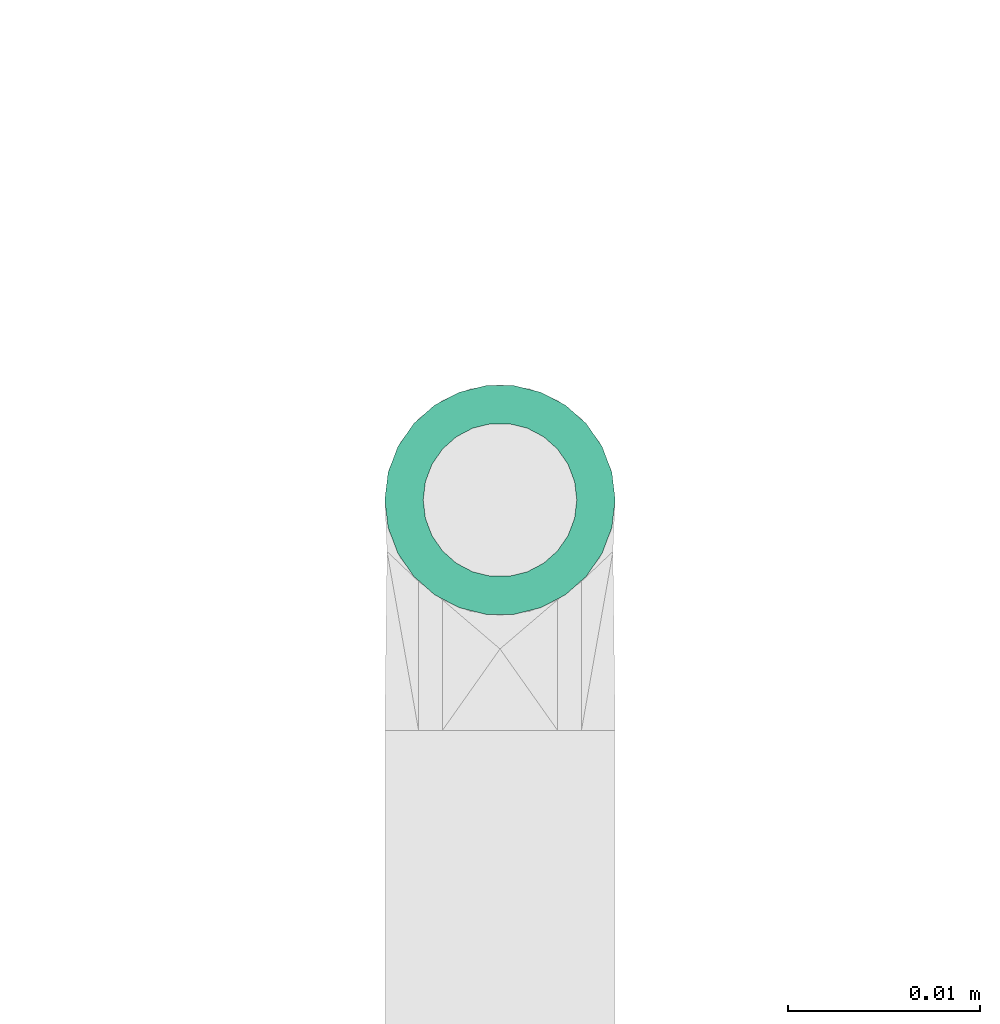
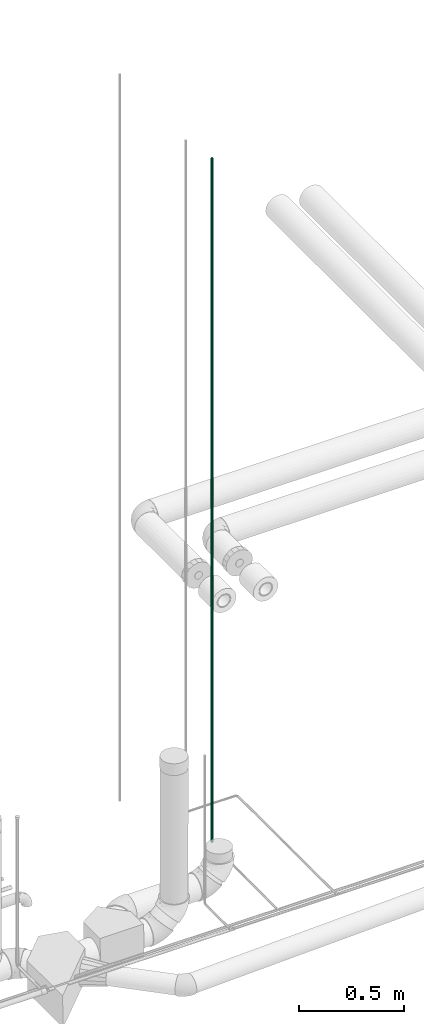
# One storey, part 51 of 156: 1 flow segment.
"""IFC2X3 building model written with IfcOpenShell, lengths in millimetres."""

from ifc_helpers import new_model, entity, si_unit, converted_unit, derived_unit, direction, frame, origin_with_axes, origin_2d_with_axis, place, context, subcontext, project, spatial, hollow_circle, extrude, source, transform, mapped, type_object, element, save


model = new_model("IFC2X3")

# Units and contexts
model_context = context("Model", 3, precision=0.01, world=frame((0.0, 4.29681676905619e-09, 0.0)), true_north=direction((4.01073788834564e-13, 1.0)))
plan_context = context("Plan", 3, precision=0.01, world=frame((0.0, 4.29681676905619e-09, 0.0)), true_north=direction((4.01073788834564e-13, 1.0)))
body_context = subcontext(model_context, "Body", "Model", "MODEL_VIEW")
ifc_project = project(units=[converted_unit("PLANEANGLEUNIT", "DEGREE", entity("IfcPositiveLengthMeasure", 0.0174532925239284), si_unit("PLANEANGLEUNIT", "RADIAN"), dimensions=[0, 0, 0, 0, 0, 0, 0]), si_unit("AREAUNIT", "SQUARE_METRE"), si_unit("LENGTHUNIT", "METRE", prefix="MILLI"), si_unit("MASSUNIT", "GRAM", prefix="KILO"), si_unit("POWERUNIT", "WATT"), si_unit("PRESSUREUNIT", "PASCAL", prefix="KILO"), si_unit("FORCEUNIT", "NEWTON", prefix="KILO"), si_unit("ELECTRICVOLTAGEUNIT", "VOLT"), si_unit("ELECTRICCURRENTUNIT", "AMPERE"), si_unit("THERMODYNAMICTEMPERATUREUNIT", "DEGREE_CELSIUS"), si_unit("TIMEUNIT", "SECOND"), si_unit("VOLUMEUNIT", "CUBIC_METRE"), derived_unit("LINEARVELOCITYUNIT", [(si_unit("LENGTHUNIT", "METRE"), 1), (si_unit("TIMEUNIT", "SECOND"), -1)]), derived_unit("VOLUMETRICFLOWRATEUNIT", [(si_unit("VOLUMEUNIT", "CUBIC_METRE"), 1), (si_unit("TIMEUNIT", "SECOND"), -1)]), derived_unit("THERMALTRANSMITTANCEUNIT", [(si_unit("POWERUNIT", "WATT"), 1), (si_unit("THERMODYNAMICTEMPERATUREUNIT", "KELVIN"), -1), (si_unit("AREAUNIT", "SQUARE_METRE"), -1)]), derived_unit("SOUNDPRESSUREUNIT", [(si_unit("PRESSUREUNIT", "PASCAL"), 1)])], contexts=[model_context, plan_context])

# Site, building, storey
site_placement = place(None, frame((0.0, -4.29681676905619e-09, 0.0), z_axis=(0.0, 0.0, 1.0), x_axis=(1.0, 0.0, 0.0)))
site = spatial("IfcSite", under=ifc_project, at=site_placement, CompositionType="ELEMENT")
building_placement = place(site_placement, frame((0.0, 4.29681676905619e-09, 0.0), z_axis=(0.0, 0.0, 1.0), x_axis=(1.0, 0.0, 0.0)))
building = spatial("IfcBuilding", under=site, at=building_placement, Name="mc-building", CompositionType="ELEMENT")
storey_placement = place(building_placement, frame((0.0, 0.0, 205200.0), z_axis=(0.0, 0.0, 1.0), x_axis=(1.0, 0.0, 0.0)))
storey = spatial("IfcBuildingStorey", under=building, at=storey_placement, Name="Nivå D + 1,2 m", CompositionType="ELEMENT", Elevation=205200.0)

# Flow segment
pipe_segment_type = type_object("IfcPipeSegmentType", Name="Kobberrør", PredefinedType="RIGIDSEGMENT")
shared_shape = source(origin_with_axes(), body_context, "Body", "SweptSolid", [
    extrude(hollow_circle(Radius=6.0, WallThickness=2.0, at=origin_2d_with_axis()), frame((0.0, 0.0, 0.0), z_axis=(1.0, 0.0, 0.0), x_axis=(0.0, 1.0, 0.0)), (0.0, 0.0, 1.0), 3975.1),
])
flow_segment_placement = place(storey_placement, frame((328981.34469, 463011.2286, 4297.29999999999), z_axis=(0.0, 1.0, 0.0), x_axis=(0.0, 0.0, 1.0)))
element("IfcFlowSegment", 1, at=flow_segment_placement, inside=storey, type_object=pipe_segment_type, Name="Kobberrør", context=body_context, shape_type="MappedRepresentation", body=[
    mapped(shared_shape, transform((0.0, 0.0, 0.0), scale=1.0)),
])

save(model, "model.ifc")
